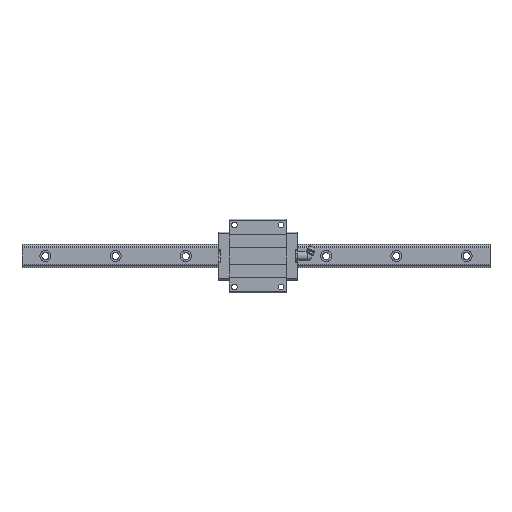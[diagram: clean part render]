
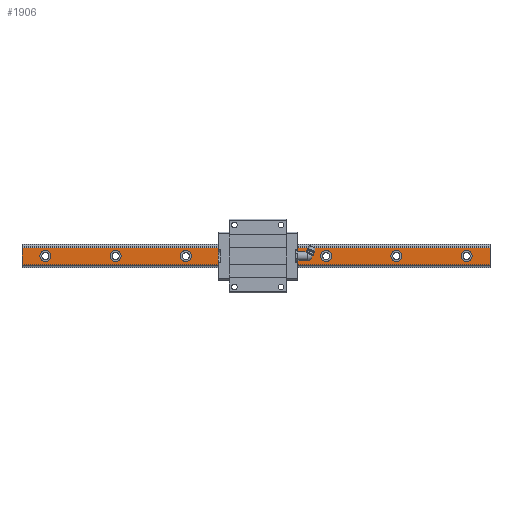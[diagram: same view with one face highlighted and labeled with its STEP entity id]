
A CAD part, top view. The second image highlights one B-rep face of the part: STEP entity #1906.
In plain terms, the highlighted planar face has unit normal (0, 0, 1).
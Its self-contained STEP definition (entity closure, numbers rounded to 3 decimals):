
#137=CARTESIAN_POINT('',(384.75,0.,17.75));
#138=VERTEX_POINT('',#137);
#139=CARTESIAN_POINT('',(380.0,0.,17.75));
#140=DIRECTION('',(0.0,0.0,-1.0));
#141=DIRECTION('',(1.0,0.0,0.0));
#142=AXIS2_PLACEMENT_3D('',#139,#140,#141);
#143=CIRCLE('',#142,4.75);
#144=EDGE_CURVE('',#138,#138,#143,.T.);
#247=CARTESIAN_POINT('',(324.75,0.,17.75));
#248=VERTEX_POINT('',#247);
#249=CARTESIAN_POINT('',(320.0,0.,17.75));
#250=DIRECTION('',(0.0,0.0,-1.0));
#251=DIRECTION('',(1.0,0.0,0.0));
#252=AXIS2_PLACEMENT_3D('',#249,#250,#251);
#253=CIRCLE('',#252,4.75);
#254=EDGE_CURVE('',#248,#248,#253,.T.);
#357=CARTESIAN_POINT('',(264.75,0.,17.75));
#358=VERTEX_POINT('',#357);
#359=CARTESIAN_POINT('',(260.0,0.,17.75));
#360=DIRECTION('',(0.0,0.0,-1.0));
#361=DIRECTION('',(1.0,0.0,0.0));
#362=AXIS2_PLACEMENT_3D('',#359,#360,#361);
#363=CIRCLE('',#362,4.75);
#364=EDGE_CURVE('',#358,#358,#363,.T.);
#467=CARTESIAN_POINT('',(204.75,0.,17.75));
#468=VERTEX_POINT('',#467);
#469=CARTESIAN_POINT('',(200.0,0.,17.75));
#470=DIRECTION('',(0.0,0.0,-1.0));
#471=DIRECTION('',(1.0,0.0,0.0));
#472=AXIS2_PLACEMENT_3D('',#469,#470,#471);
#473=CIRCLE('',#472,4.75);
#474=EDGE_CURVE('',#468,#468,#473,.T.);
#577=CARTESIAN_POINT('',(144.75,0.,17.75));
#578=VERTEX_POINT('',#577);
#579=CARTESIAN_POINT('',(140.0,0.,17.75));
#580=DIRECTION('',(0.0,0.0,-1.0));
#581=DIRECTION('',(1.0,0.0,0.0));
#582=AXIS2_PLACEMENT_3D('',#579,#580,#581);
#583=CIRCLE('',#582,4.75);
#584=EDGE_CURVE('',#578,#578,#583,.T.);
#687=CARTESIAN_POINT('',(84.75,0.,17.75));
#688=VERTEX_POINT('',#687);
#689=CARTESIAN_POINT('',(80.0,0.,17.75));
#690=DIRECTION('',(0.0,0.0,-1.0));
#691=DIRECTION('',(1.0,0.0,0.0));
#692=AXIS2_PLACEMENT_3D('',#689,#690,#691);
#693=CIRCLE('',#692,4.75);
#694=EDGE_CURVE('',#688,#688,#693,.T.);
#797=CARTESIAN_POINT('',(24.75,0.,17.75));
#798=VERTEX_POINT('',#797);
#799=CARTESIAN_POINT('',(20.0,0.,17.75));
#800=DIRECTION('',(0.0,0.0,-1.0));
#801=DIRECTION('',(1.0,0.0,0.0));
#802=AXIS2_PLACEMENT_3D('',#799,#800,#801);
#803=CIRCLE('',#802,4.75);
#804=EDGE_CURVE('',#798,#798,#803,.T.);
#858=CARTESIAN_POINT('',(400.0,7.263,17.75));
#859=VERTEX_POINT('',#858);
#876=CARTESIAN_POINT('',(0.0,7.263,17.75));
#877=VERTEX_POINT('',#876);
#884=CARTESIAN_POINT('',(0.0,7.263,17.75));
#885=DIRECTION('',(1.0,0.0,0.0));
#886=VECTOR('',#885,400.0);
#887=LINE('',#884,#886);
#888=EDGE_CURVE('',#877,#859,#887,.T.);
#1838=CARTESIAN_POINT('',(400.0,-7.263,17.75));
#1839=VERTEX_POINT('',#1838);
#1846=CARTESIAN_POINT('',(0.0,-7.263,17.75));
#1847=VERTEX_POINT('',#1846);
#1848=CARTESIAN_POINT('',(0.0,-7.263,17.75));
#1849=DIRECTION('',(1.0,0.0,0.0));
#1850=VECTOR('',#1849,400.0);
#1851=LINE('',#1848,#1850);
#1852=EDGE_CURVE('',#1847,#1839,#1851,.T.);
#1864=CARTESIAN_POINT('',(0.0,-7.263,17.75));
#1865=DIRECTION('',(0.0,0.0,1.0));
#1866=DIRECTION('',(1.0,0.0,0.0));
#1867=AXIS2_PLACEMENT_3D('',#1864,#1865,#1866);
#1868=PLANE('',#1867);
#1869=CARTESIAN_POINT('',(400.0,-7.263,17.75));
#1870=DIRECTION('',(0.0,1.0,0.0));
#1871=VECTOR('',#1870,14.526);
#1872=LINE('',#1869,#1871);
#1873=EDGE_CURVE('',#1839,#859,#1872,.T.);
#1874=ORIENTED_EDGE('',*,*,#1873,.T.);
#1875=ORIENTED_EDGE('',*,*,#888,.F.);
#1876=CARTESIAN_POINT('',(0.0,7.263,17.75));
#1877=DIRECTION('',(0.0,-1.0,0.0));
#1878=VECTOR('',#1877,14.526);
#1879=LINE('',#1876,#1878);
#1880=EDGE_CURVE('',#877,#1847,#1879,.T.);
#1881=ORIENTED_EDGE('',*,*,#1880,.T.);
#1882=ORIENTED_EDGE('',*,*,#1852,.T.);
#1883=EDGE_LOOP('',(#1874,#1875,#1881,#1882));
#1884=FACE_OUTER_BOUND('',#1883,.T.);
#1885=ORIENTED_EDGE('',*,*,#144,.T.);
#1886=EDGE_LOOP('',(#1885));
#1887=FACE_BOUND('',#1886,.T.);
#1888=ORIENTED_EDGE('',*,*,#254,.T.);
#1889=EDGE_LOOP('',(#1888));
#1890=FACE_BOUND('',#1889,.T.);
#1891=ORIENTED_EDGE('',*,*,#364,.T.);
#1892=EDGE_LOOP('',(#1891));
#1893=FACE_BOUND('',#1892,.T.);
#1894=ORIENTED_EDGE('',*,*,#474,.T.);
#1895=EDGE_LOOP('',(#1894));
#1896=FACE_BOUND('',#1895,.T.);
#1897=ORIENTED_EDGE('',*,*,#584,.T.);
#1898=EDGE_LOOP('',(#1897));
#1899=FACE_BOUND('',#1898,.T.);
#1900=ORIENTED_EDGE('',*,*,#694,.T.);
#1901=EDGE_LOOP('',(#1900));
#1902=FACE_BOUND('',#1901,.T.);
#1903=ORIENTED_EDGE('',*,*,#804,.T.);
#1904=EDGE_LOOP('',(#1903));
#1905=FACE_BOUND('',#1904,.T.);
#1906=ADVANCED_FACE('',(#1884,#1887,#1890,#1893,#1896,#1899,#1902,#1905),#1868,.T.);
